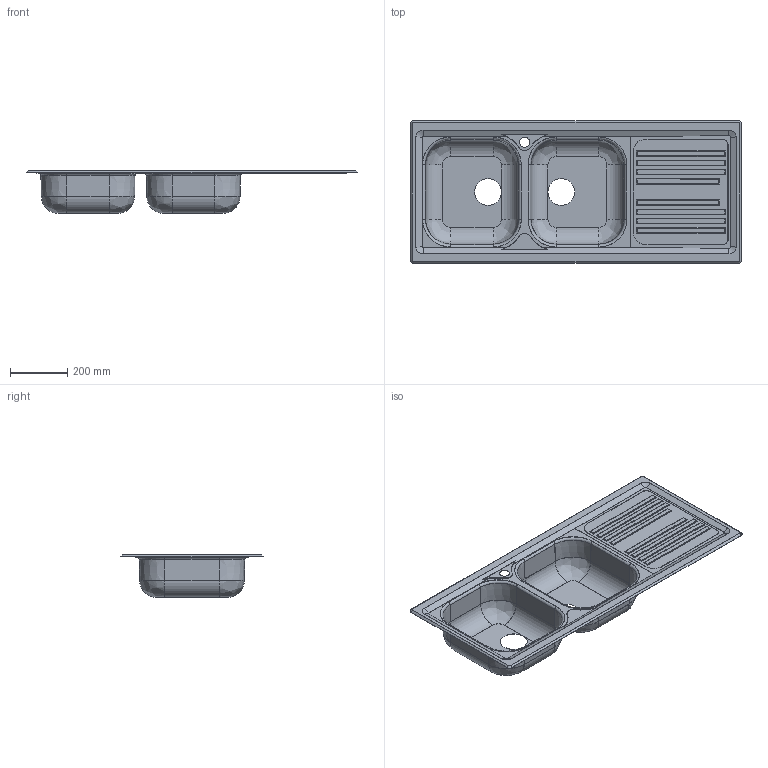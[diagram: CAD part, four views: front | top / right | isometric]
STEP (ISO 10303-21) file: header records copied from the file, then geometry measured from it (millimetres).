
FILE_DESCRIPTION(('CATIA V5 STEP Exchange'),'2;1');
FILE_NAME('\\sr02\Apell\Disegni\DISEGNI\LAVELLI\Omni\Parti\LYP116D\LYP116D.stp','2018-02-23T12:48:19+00:00',('none'),('none'),'CATIA Version 5-6 Release 2014','CATIA V5 STEP AP203','none');
FILE_SCHEMA(('CONFIG_CONTROL_DESIGN'));
Length unit declared in the file: millimetre
Products named in the file (1): 891389
Bounding box: 1160 x 500 x 150 mm (x, y, z)
Volume: 511688.6 mm3; surface area: 1712086.8 mm2
Topology: 3 solids, 3 shells, 316 faces, 762 edges, 468 vertices
Faces by surface type: plane 164, cylinder 88, cone 32, revolution 16, torus 16
Entity records: 8905 total; most frequent: CARTESIAN_POINT 1929, ORIENTED_EDGE 1524, DIRECTION 1174, EDGE_CURVE 762, AXIS2_PLACEMENT_3D 469, VERTEX_POINT 468, VECTOR 438, LINE 438
